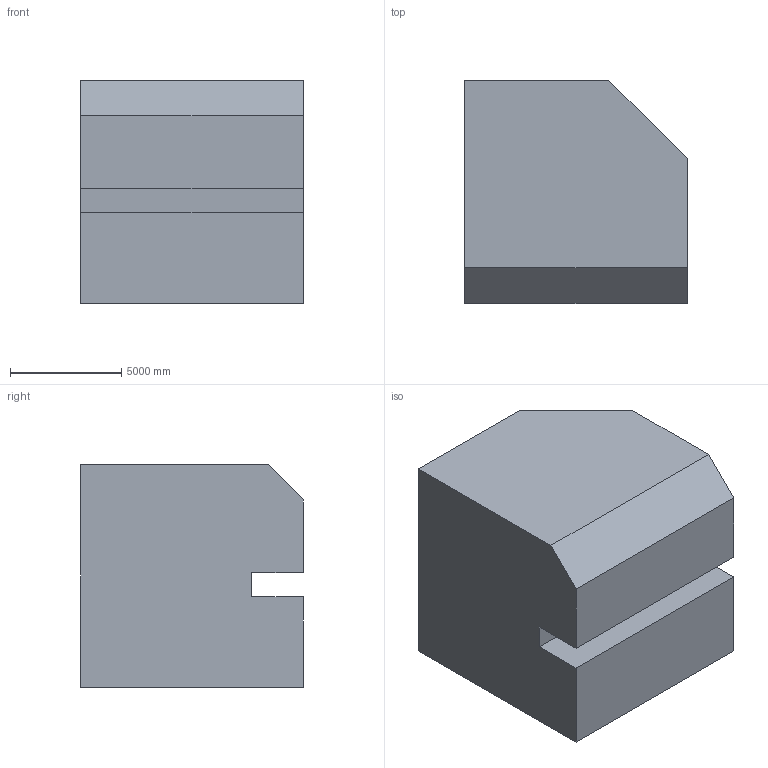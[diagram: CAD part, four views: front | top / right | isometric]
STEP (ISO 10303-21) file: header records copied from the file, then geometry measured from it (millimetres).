
FILE_DESCRIPTION (( 'STEP AP203' ), '1' );
FILE_NAME ('28.STEP', '2022-08-30T14:04:55', ( 'user' ), ( '' ), 'SwSTEP 2.0', 'SolidWorks 2021', '' );
FILE_SCHEMA (( 'CONFIG_CONTROL_DESIGN' ));
Length unit declared in the file: centimetre
Products named in the file (1): 28
Bounding box: 10000 x 10000 x 10000 mm (x, y, z)
Volume: 899804327751.7 mm3; surface area: 596516565.4 mm2
Topology: 1 solids, 1 shells, 12 faces, 30 edges, 20 vertices
Faces by surface type: plane 12
Entity records: 431 total; most frequent: CARTESIAN_POINT 63, ORIENTED_EDGE 60, DIRECTION 56, EDGE_CURVE 30, VECTOR 30, LINE 30, VERTEX_POINT 20, AXIS2_PLACEMENT_3D 13
